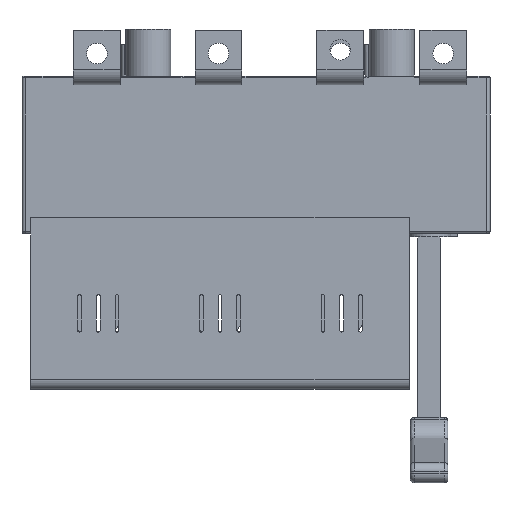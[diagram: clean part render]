
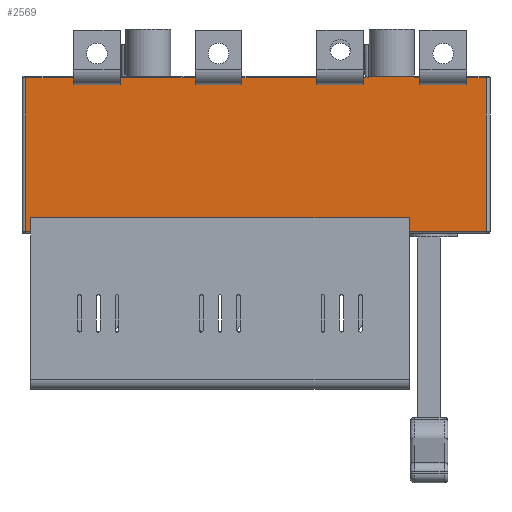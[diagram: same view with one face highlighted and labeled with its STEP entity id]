
A CAD part, front view. The second image highlights one B-rep face of the part: STEP entity #2569.
In plain terms, the highlighted planar face has unit normal (0, -1, 0).
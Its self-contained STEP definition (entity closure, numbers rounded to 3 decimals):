
#2569=ADVANCED_FACE('',(#4184),#3226,.T.);
#3226=PLANE('',#21908);
#4184=FACE_OUTER_BOUND('',#5416,.T.);
#5416=EDGE_LOOP('',(#11022,#11023,#11024,#11025,#11026,#11027,#11028,#11029,
#11030,#11031,#11032,#11033,#11034,#11035,#11036,#11037,#11038,#11039,#11040,
#11041,#11042,#11043,#11044,#11045,#11046,#11047));
#11022=ORIENTED_EDGE('',*,*,#15282,.F.);
#11023=ORIENTED_EDGE('',*,*,#15930,.T.);
#11024=ORIENTED_EDGE('',*,*,#15890,.T.);
#11025=ORIENTED_EDGE('',*,*,#15883,.F.);
#11026=ORIENTED_EDGE('',*,*,#15819,.F.);
#11027=ORIENTED_EDGE('',*,*,#15903,.T.);
#11028=ORIENTED_EDGE('',*,*,#15832,.T.);
#11029=ORIENTED_EDGE('',*,*,#15926,.T.);
#11030=ORIENTED_EDGE('',*,*,#15328,.T.);
#11031=ORIENTED_EDGE('',*,*,#15313,.F.);
#11032=ORIENTED_EDGE('',*,*,#15331,.T.);
#11033=ORIENTED_EDGE('',*,*,#15927,.T.);
#11034=ORIENTED_EDGE('',*,*,#15375,.F.);
#11035=ORIENTED_EDGE('',*,*,#15361,.F.);
#11036=ORIENTED_EDGE('',*,*,#15379,.F.);
#11037=ORIENTED_EDGE('',*,*,#15920,.T.);
#11038=ORIENTED_EDGE('',*,*,#15423,.F.);
#11039=ORIENTED_EDGE('',*,*,#15409,.F.);
#11040=ORIENTED_EDGE('',*,*,#15427,.F.);
#11041=ORIENTED_EDGE('',*,*,#15916,.T.);
#11042=ORIENTED_EDGE('',*,*,#15764,.F.);
#11043=ORIENTED_EDGE('',*,*,#15754,.T.);
#11044=ORIENTED_EDGE('',*,*,#15763,.T.);
#11045=ORIENTED_EDGE('',*,*,#15724,.T.);
#11046=ORIENTED_EDGE('',*,*,#15278,.F.);
#11047=ORIENTED_EDGE('',*,*,#15265,.F.);
#12621=VERTEX_POINT('',#32090);
#12622=VERTEX_POINT('',#32092);
#12630=VERTEX_POINT('',#32118);
#12633=VERTEX_POINT('',#32125);
#12656=VERTEX_POINT('',#32189);
#12658=VERTEX_POINT('',#32192);
#12667=VERTEX_POINT('',#32219);
#12669=VERTEX_POINT('',#32226);
#12693=VERTEX_POINT('',#32290);
#12694=VERTEX_POINT('',#32292);
#12703=VERTEX_POINT('',#32320);
#12705=VERTEX_POINT('',#32326);
#12729=VERTEX_POINT('',#32390);
#12730=VERTEX_POINT('',#32392);
#12739=VERTEX_POINT('',#32420);
#12741=VERTEX_POINT('',#32426);
#12938=VERTEX_POINT('',#33050);
#12945=VERTEX_POINT('',#33088);
#12955=VERTEX_POINT('',#33115);
#12959=VERTEX_POINT('',#33157);
#13009=VERTEX_POINT('',#33306);
#13010=VERTEX_POINT('',#33308);
#13017=VERTEX_POINT('',#33338);
#13020=VERTEX_POINT('',#33355);
#13055=VERTEX_POINT('',#33457);
#13058=VERTEX_POINT('',#33469);
#15265=EDGE_CURVE('',#12621,#12622,#17621,.T.);
#15278=EDGE_CURVE('',#12622,#12630,#17631,.T.);
#15282=EDGE_CURVE('',#12633,#12621,#17633,.T.);
#15313=EDGE_CURVE('',#12656,#12658,#17653,.T.);
#15328=EDGE_CURVE('',#12667,#12658,#17664,.T.);
#15331=EDGE_CURVE('',#12656,#12669,#17666,.T.);
#15361=EDGE_CURVE('',#12693,#12694,#17685,.T.);
#15375=EDGE_CURVE('',#12694,#12703,#17696,.T.);
#15379=EDGE_CURVE('',#12705,#12693,#17698,.T.);
#15409=EDGE_CURVE('',#12729,#12730,#17717,.T.);
#15423=EDGE_CURVE('',#12730,#12739,#17728,.T.);
#15427=EDGE_CURVE('',#12741,#12729,#17730,.T.);
#15724=EDGE_CURVE('',#12938,#12630,#17890,.T.);
#15754=EDGE_CURVE('',#12959,#12955,#17899,.T.);
#15763=EDGE_CURVE('',#12955,#12938,#17904,.T.);
#15764=EDGE_CURVE('',#12959,#12945,#17905,.T.);
#15819=EDGE_CURVE('',#13009,#13010,#17929,.T.);
#15832=EDGE_CURVE('',#13017,#13020,#17936,.T.);
#15883=EDGE_CURVE('',#13010,#13055,#17968,.T.);
#15890=EDGE_CURVE('',#13058,#13055,#17974,.T.);
#15903=EDGE_CURVE('',#13009,#13017,#17984,.T.);
#15916=EDGE_CURVE('',#12741,#12945,#17997,.T.);
#15920=EDGE_CURVE('',#12705,#12739,#18001,.T.);
#15926=EDGE_CURVE('',#13020,#12667,#18007,.T.);
#15927=EDGE_CURVE('',#12669,#12703,#18008,.T.);
#15930=EDGE_CURVE('',#12633,#13058,#18011,.T.);
#17621=LINE('',#32091,#19698);
#17631=LINE('',#32117,#19708);
#17633=LINE('',#32126,#19710);
#17653=LINE('',#32191,#19730);
#17664=LINE('',#32221,#19741);
#17666=LINE('',#32227,#19743);
#17685=LINE('',#32291,#19762);
#17696=LINE('',#32319,#19773);
#17698=LINE('',#32327,#19775);
#17717=LINE('',#32391,#19794);
#17728=LINE('',#32419,#19805);
#17730=LINE('',#32427,#19807);
#17890=LINE('',#33069,#19967);
#17899=LINE('',#33160,#19976);
#17904=LINE('',#33177,#19981);
#17905=LINE('',#33179,#19982);
#17929=LINE('',#33307,#20006);
#17936=LINE('',#33356,#20013);
#17968=LINE('',#33456,#20045);
#17974=LINE('',#33468,#20051);
#17984=LINE('',#33492,#20061);
#17997=LINE('',#33517,#20074);
#18001=LINE('',#33523,#20078);
#18007=LINE('',#33532,#20084);
#18008=LINE('',#33534,#20085);
#18011=LINE('',#33539,#20088);
#19698=VECTOR('',#26179,1.);
#19708=VECTOR('',#26205,1.);
#19710=VECTOR('',#26213,1.);
#19730=VECTOR('',#26275,1.);
#19741=VECTOR('',#26304,1.);
#19743=VECTOR('',#26310,1.);
#19762=VECTOR('',#26371,1.);
#19773=VECTOR('',#26398,1.);
#19775=VECTOR('',#26406,1.);
#19794=VECTOR('',#26467,1.);
#19805=VECTOR('',#26494,1.);
#19807=VECTOR('',#26502,1.);
#19967=VECTOR('',#27176,1.);
#19976=VECTOR('',#27241,1.);
#19981=VECTOR('',#27264,1.);
#19982=VECTOR('',#27267,1.);
#20006=VECTOR('',#27407,1.);
#20013=VECTOR('',#27428,1.);
#20045=VECTOR('',#27528,1.);
#20051=VECTOR('',#27540,1.);
#20061=VECTOR('',#27566,1.);
#20074=VECTOR('',#27603,1.);
#20078=VECTOR('',#27611,1.);
#20084=VECTOR('',#27623,1.);
#20085=VECTOR('',#27626,1.);
#20088=VECTOR('',#27633,1.);
#21908=AXIS2_PLACEMENT_3D('',#33540,#27634,#27635);
#26179=DIRECTION('',(1.,0.,0.));
#26205=DIRECTION('',(0.,0.,1.));
#26213=DIRECTION('',(0.,0.,-1.));
#26275=DIRECTION('',(1.,0.,0.));
#26304=DIRECTION('',(0.,0.,-1.));
#26310=DIRECTION('',(0.,0.,1.));
#26371=DIRECTION('',(1.,0.,0.));
#26398=DIRECTION('',(0.,0.,1.));
#26406=DIRECTION('',(0.,0.,-1.));
#26467=DIRECTION('',(1.,0.,0.));
#26494=DIRECTION('',(0.,0.,1.));
#26502=DIRECTION('',(0.,0.,-1.));
#27176=DIRECTION('',(-1.,0.,0.));
#27241=DIRECTION('',(1.,0.,0.));
#27264=DIRECTION('',(0.,0.,1.));
#27267=DIRECTION('',(0.,0.,1.));
#27407=DIRECTION('',(0.,0.,-1.));
#27428=DIRECTION('',(0.,0.,-1.));
#27528=DIRECTION('',(1.,0.,0.));
#27540=DIRECTION('',(0.,0.,1.));
#27566=DIRECTION('',(-1.,0.,0.));
#27603=DIRECTION('',(-1.,0.,0.));
#27611=DIRECTION('',(-1.,0.,0.));
#27623=DIRECTION('',(-1.,0.,0.));
#27626=DIRECTION('',(-1.,0.,0.));
#27633=DIRECTION('',(-1.,0.,0.));
#27634=DIRECTION('',(0.,-1.,0.));
#27635=DIRECTION('',(1.,0.,0.));
#32090=CARTESIAN_POINT('',(15.,-52.5,-4.118));
#32091=CARTESIAN_POINT('',(15.,-52.5,-4.118));
#32092=CARTESIAN_POINT('',(40.,-52.5,-4.118));
#32117=CARTESIAN_POINT('',(40.,-52.5,4.));
#32118=CARTESIAN_POINT('',(40.,-52.5,-1.));
#32125=CARTESIAN_POINT('',(15.,-52.5,-1.));
#32126=CARTESIAN_POINT('',(15.,-52.5,4.));
#32189=CARTESIAN_POINT('',(-40.,-52.5,-4.118));
#32191=CARTESIAN_POINT('',(-40.,-52.5,-4.118));
#32192=CARTESIAN_POINT('',(-15.,-52.5,-4.118));
#32219=CARTESIAN_POINT('',(-15.,-52.5,-1.));
#32221=CARTESIAN_POINT('',(-15.,-52.5,4.));
#32226=CARTESIAN_POINT('',(-40.,-52.5,-1.));
#32227=CARTESIAN_POINT('',(-40.,-52.5,4.));
#32290=CARTESIAN_POINT('',(-105.,-52.5,-4.118));
#32291=CARTESIAN_POINT('',(-105.,-52.5,-4.118));
#32292=CARTESIAN_POINT('',(-80.,-52.5,-4.118));
#32319=CARTESIAN_POINT('',(-80.,-52.5,4.));
#32320=CARTESIAN_POINT('',(-80.,-52.5,-1.));
#32326=CARTESIAN_POINT('',(-105.,-52.5,-1.));
#32327=CARTESIAN_POINT('',(-105.,-52.5,4.));
#32390=CARTESIAN_POINT('',(-170.,-52.5,-4.118));
#32391=CARTESIAN_POINT('',(-170.,-52.5,-4.118));
#32392=CARTESIAN_POINT('',(-145.,-52.5,-4.118));
#32419=CARTESIAN_POINT('',(-145.,-52.5,4.));
#32420=CARTESIAN_POINT('',(-145.,-52.5,-1.));
#32426=CARTESIAN_POINT('',(-170.,-52.5,-1.));
#32427=CARTESIAN_POINT('',(-170.,-52.5,4.));
#33050=CARTESIAN_POINT('',(50.5,-52.5,-1.));
#33069=CARTESIAN_POINT('',(12.,-52.5,-1.));
#33088=CARTESIAN_POINT('',(-195.5,-52.5,-1.));
#33115=CARTESIAN_POINT('',(50.5,-52.5,-83.));
#33157=CARTESIAN_POINT('',(-195.5,-52.5,-83.));
#33160=CARTESIAN_POINT('',(-12.,-52.5,-83.));
#33177=CARTESIAN_POINT('',(50.5,-52.5,-84.));
#33179=CARTESIAN_POINT('',(-195.5,-52.5,-84.));
#33306=CARTESIAN_POINT('',(-12.,-52.5,17.));
#33307=CARTESIAN_POINT('',(-12.,-52.5,25.));
#33308=CARTESIAN_POINT('',(-12.,-52.5,0.));
#33338=CARTESIAN_POINT('',(-12.5,-52.5,17.));
#33355=CARTESIAN_POINT('',(-12.5,-52.5,-1.));
#33356=CARTESIAN_POINT('',(-12.5,-52.5,4.));
#33456=CARTESIAN_POINT('',(50.5,-52.5,0.));
#33457=CARTESIAN_POINT('',(12.,-52.5,0.));
#33468=CARTESIAN_POINT('',(12.,-52.5,4.));
#33469=CARTESIAN_POINT('',(12.,-52.5,-1.));
#33492=CARTESIAN_POINT('',(7.5,-52.5,17.));
#33517=CARTESIAN_POINT('',(-195.5,-52.5,-1.));
#33523=CARTESIAN_POINT('',(-195.5,-52.5,-1.));
#33532=CARTESIAN_POINT('',(-195.5,-52.5,-1.));
#33534=CARTESIAN_POINT('',(-195.5,-52.5,-1.));
#33539=CARTESIAN_POINT('',(12.,-52.5,-1.));
#33540=CARTESIAN_POINT('',(-12.,-52.5,4.));
